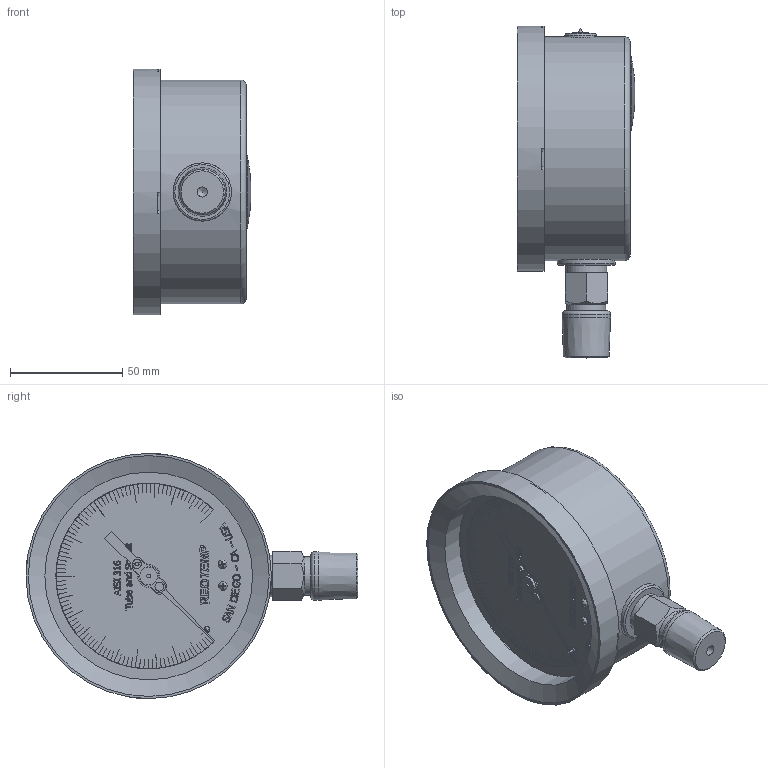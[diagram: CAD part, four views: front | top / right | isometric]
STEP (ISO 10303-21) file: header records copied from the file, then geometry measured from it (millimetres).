
FILE_DESCRIPTION(/* description */ (''),/* implementation_level */ '2;1');
FILE_NAME(/* name */ 'P:\3D Drawings\PR40\PR40-half-NPT-Bottom-Connect\PR40-half-NPT-Bottom-Connect-STP\PR40-half-NPT-Bottom-Connect-STP.stp',/* time_stamp */ '2015-11-06T16:01:22-08:00',/* author */ ('charles'),/* organization */ (''),/* preprocessor_version */ 'ST-DEVELOPER v15.2',/* originating_system */ 'Autodesk Inventor 2014',/* authorisation */ '');
FILE_SCHEMA (('AUTOMOTIVE_DESIGN { 1 0 10303 214 3 1 1 }'));
Length unit declared in the file: inch
Products named in the file (1): PR40-half-NPT-Bottom-Connect
Bounding box: 52.33 x 147.76 x 109.22 mm (x, y, z)
Volume: 262015.8 mm3; surface area: 59023.7 mm2
Topology: 2 solids, 6 shells, 1304 faces, 3462 edges, 2302 vertices
Faces by surface type: plane 900, bspline 291, cylinder 98, cone 9, torus 5, sphere 1
Full cylindrical faces by diameter (mm): 1.016 x2, 1.6 x1, 1.74 x1, 2.54 x1, 3.302 x2, 3.937 x1, 3.988 x1, 4.496 x1, 5.994 x1, 7.874 x1, 13.97 x1, 17.323 x1, 18.288 x1, 21.59 x1, 25.908 x1, 32.75 x1, 92.456 x2, 99.695 x1, 109.22 x1
Entity records: 43600 total; most frequent: CARTESIAN_POINT 12019, ORIENTED_EDGE 6824, DIRECTION 5064, EDGE_CURVE 3412, LINE 2564, VECTOR 2564, VERTEX_POINT 2289, EDGE_LOOP 1473
